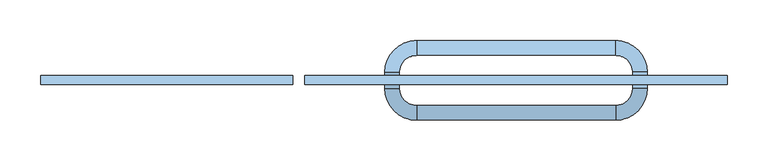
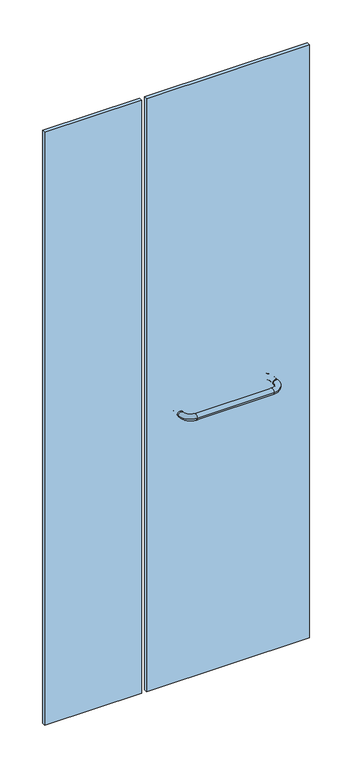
"""IFC4 building model written with IfcOpenShell, lengths in millimetres: window geometry, Baño 1 Puerta lateral - toallero simple : CA09-cancel baño-0.86."""

from ifc_helpers import new_model, si_unit, point, frame, origin, origin_with_axes, place, context, project, spatial, polyline, circle_curve, ellipse_curve, trimmed, outline, extrude, source, transform, mapped, element, save
from ifc_brep_helpers import cylinder_surface, revolved_surface, advanced_brep


def window_3a4cdc61(model_context):
    return source(origin(), model_context, "Body", "SolidModel", [
        extrude(outline(polyline([(-105.0, -5.5), (-105.0, 5.5), (415.0, 5.5), (415.0, -5.5), (-105.0, -5.5)])), origin_with_axes(), (0.0, 0.0, 1.0), 2000.0),
        extrude(outline(polyline([(-430.0, -5.5), (-430.0, 5.5), (-120.0, 5.5), (-120.0, -5.5), (-430.0, -5.5)])), origin_with_axes(), (0.0, 0.0, 1.0), 2000.0),
        advanced_brep(
        [(-6.5, 10.0, 900.0), (32.5, 49.0, 900.0), (32.5, 31.0, 900.0), (11.5, 10.0, 900.0), (11.5, -10.0, 900.0), (-6.5, -10.0, 900.0), (32.5, -49.0, 900.0), (32.5, -31.0, 900.0), (277.5, -31.0, 900.0), (277.5, -49.0, 900.0), (316.5, -10.0, 900.0), (298.5, -10.0, 900.0), (298.5, 10.0, 900.0), (316.5, 10.0, 900.0), (277.5, 49.0, 900.0), (277.5, 31.0, 900.0)],
        [
            (0, 1, circle_curve(frame((32.5, 10.0, 900.0), z_axis=(0.0, 0.0, -1.0), x_axis=(0.0, 1.0, 0.0)), 39.0)),
            (1, 2, circle_curve(frame((32.5, 40.0, 900.0), z_axis=(-1.0, 0.0, 0.0), x_axis=(0.0, -1.0, 0.0)), 9.0)),
            (2, 3, circle_curve(frame((32.5, 10.0, 900.0), z_axis=(0.0, 0.0, 1.0), x_axis=(0.0, 1.0, 0.0)), 21.0)),
            (3, 0, circle_curve(frame((2.5, 10.0, 900.0), z_axis=(0.0, 1.0, 0.0), x_axis=(1.0, 0.0, 0.0)), 9.0)),
            (2, 1, circle_curve(frame((32.5, 40.0, 900.0), z_axis=(-1.0, 0.0, 0.0), x_axis=(0.0, -1.0, 0.0)), 9.0)),
            (0, 3, circle_curve(frame((2.5, 10.0, 900.0), z_axis=(0.0, 1.0, 0.0), x_axis=(1.0, 0.0, 0.0)), 9.0)),
            (3, 4),
            (4, 5, circle_curve(frame((2.5, -10.0, 900.0), z_axis=(0.0, 1.0, 0.0), x_axis=(1.0, 0.0, 0.0)), 9.0)),
            (5, 0),
            (5, 4, circle_curve(frame((2.5, -10.0, 900.0), z_axis=(0.0, 1.0, 0.0), x_axis=(1.0, 0.0, 0.0)), 9.0)),
            (6, 5, circle_curve(frame((32.5, -10.0, 900.0), z_axis=(0.0, 0.0, -1.0), x_axis=(-1.0, 0.0, 0.0)), 39.0)),
            (4, 7, circle_curve(frame((32.5, -10.0, 900.0), z_axis=(0.0, 0.0, 1.0), x_axis=(-1.0, 0.0, 0.0)), 21.0)),
            (7, 6, circle_curve(frame((32.5, -40.0, 900.0), z_axis=(-1.0, 0.0, 0.0), x_axis=(0.0, 1.0, 0.0)), 9.0)),
            (6, 7, circle_curve(frame((32.5, -40.0, 900.0), z_axis=(-1.0, 0.0, 0.0), x_axis=(0.0, 1.0, 0.0)), 9.0)),
            (7, 8),
            (8, 9, circle_curve(frame((277.5, -40.0, 900.0), z_axis=(-1.0, 0.0, 0.0), x_axis=(0.0, 1.0, 0.0)), 9.0)),
            (9, 6),
            (9, 8, circle_curve(frame((277.5, -40.0, 900.0), z_axis=(-1.0, 0.0, 0.0), x_axis=(0.0, 1.0, 0.0)), 9.0)),
            (10, 9, circle_curve(frame((277.5, -10.0, 900.0), z_axis=(0.0, 0.0, -1.0), x_axis=(0.0, -1.0, 0.0)), 39.0)),
            (8, 11, circle_curve(frame((277.5, -10.0, 900.0), z_axis=(0.0, 0.0, 1.0), x_axis=(0.0, -1.0, 0.0)), 21.0)),
            (11, 10, circle_curve(frame((307.5, -10.0, 900.0), z_axis=(0.0, -1.0, 0.0), x_axis=(-1.0, 0.0, 0.0)), 9.0)),
            (10, 11, circle_curve(frame((307.5, -10.0, 900.0), z_axis=(0.0, -1.0, 0.0), x_axis=(-1.0, 0.0, 0.0)), 9.0)),
            (11, 12),
            (12, 13, circle_curve(frame((307.5, 10.0, 900.0), z_axis=(0.0, -1.0, 0.0), x_axis=(-1.0, 0.0, 0.0)), 9.0)),
            (13, 10),
            (13, 12, circle_curve(frame((307.5, 10.0, 900.0), z_axis=(0.0, -1.0, 0.0), x_axis=(-1.0, 0.0, 0.0)), 9.0)),
            (14, 13, circle_curve(frame((277.5, 10.0, 900.0), z_axis=(0.0, 0.0, -1.0), x_axis=(1.0, 0.0, 0.0)), 39.0)),
            (12, 15, circle_curve(frame((277.5, 10.0, 900.0), z_axis=(0.0, 0.0, 1.0), x_axis=(1.0, 0.0, 0.0)), 21.0)),
            (15, 14, circle_curve(frame((277.5, 40.0, 900.0), z_axis=(1.0, 0.0, 0.0), x_axis=(0.0, -1.0, 0.0)), 9.0)),
            (14, 15, circle_curve(frame((277.5, 40.0, 900.0), z_axis=(1.0, 0.0, 0.0), x_axis=(0.0, -1.0, 0.0)), 9.0)),
            (15, 2),
            (1, 14),
        ],
        [
            revolved_surface(trimmed(ellipse_curve(frame((32.5, 40.0, 900.0), z_axis=(1.0, 0.0, 0.0), x_axis=(0.0, -1.0, 0.0)), 9.0, 9.0), [point((32.5, 31.0, 900.0))], [point((32.5, 49.0, 900.0))], True, "CARTESIAN"), (32.5, 10.0, 0.0), (0.0, 0.0, 1.0)),
            revolved_surface(trimmed(ellipse_curve(frame((32.5, 40.0, 900.0), z_axis=(1.0, 0.0, 0.0), x_axis=(0.0, -1.0, 0.0)), 9.0, 9.0), [point((32.5, 49.0, 900.0))], [point((32.5, 31.0, 900.0))], True, "CARTESIAN"), (32.5, 10.0, 0.0), (0.0, 0.0, 1.0)),
            cylinder_surface(frame((2.5, 10.0, 900.0), z_axis=(0.0, 1.0, 0.0), x_axis=(1.0, 0.0, 0.0)), 9.0),
            revolved_surface(trimmed(ellipse_curve(frame((2.5, -10.0, 900.0), z_axis=(0.0, 1.0, 0.0), x_axis=(1.0, 0.0, 0.0)), 9.0, 9.0), [point((11.5, -10.0, 900.0))], [point((-6.5, -10.0, 900.0))], True, "CARTESIAN"), (32.5, -10.0, 0.0), (0.0, 0.0, 1.0)),
            revolved_surface(trimmed(ellipse_curve(frame((2.5, -10.0, 900.0), z_axis=(0.0, 1.0, 0.0), x_axis=(1.0, 0.0, 0.0)), 9.0, 9.0), [point((-6.5, -10.0, 900.0))], [point((11.5, -10.0, 900.0))], True, "CARTESIAN"), (32.5, -10.0, 0.0), (0.0, 0.0, 1.0)),
            cylinder_surface(frame((32.5, -40.0, 900.0), z_axis=(-1.0, 0.0, 0.0), x_axis=(0.0, 1.0, 0.0)), 9.0),
            revolved_surface(trimmed(ellipse_curve(frame((277.5, -40.0, 900.0), z_axis=(-1.0, 0.0, 0.0), x_axis=(0.0, 1.0, 0.0)), 9.0, 9.0), [point((277.5, -31.0, 900.0))], [point((277.5, -49.0, 900.0))], True, "CARTESIAN"), (277.5, -10.0, 0.0), (0.0, 0.0, 1.0)),
            revolved_surface(trimmed(ellipse_curve(frame((277.5, -40.0, 900.0), z_axis=(-1.0, 0.0, 0.0), x_axis=(0.0, 1.0, 0.0)), 9.0, 9.0), [point((277.5, -49.0, 900.0))], [point((277.5, -31.0, 900.0))], True, "CARTESIAN"), (277.5, -10.0, 0.0), (0.0, 0.0, 1.0)),
            cylinder_surface(frame((307.5, -10.0, 900.0), z_axis=(0.0, -1.0, 0.0), x_axis=(-1.0, 0.0, 0.0)), 9.0),
            revolved_surface(trimmed(ellipse_curve(frame((307.5, 10.0, 900.0), z_axis=(0.0, -1.0, 0.0), x_axis=(-1.0, 0.0, 0.0)), 9.0, 9.0), [point((298.5, 10.0, 900.0))], [point((316.5, 10.0, 900.0))], True, "CARTESIAN"), (277.5, 10.0, 0.0), (0.0, 0.0, 1.0)),
            revolved_surface(trimmed(ellipse_curve(frame((307.5, 10.0, 900.0), z_axis=(0.0, -1.0, 0.0), x_axis=(-1.0, 0.0, 0.0)), 9.0, 9.0), [point((316.5, 10.0, 900.0))], [point((298.5, 10.0, 900.0))], True, "CARTESIAN"), (277.5, 10.0, 0.0), (0.0, 0.0, 1.0)),
            cylinder_surface(frame((277.5, 40.0, 900.0), z_axis=(1.0, 0.0, 0.0), x_axis=(0.0, -1.0, 0.0)), 9.0),
        ],
        [
            (0, [[1, 2, 3, 4]]),
            (1, [[-3, 5, -1, 6]]),
            (2, [[-4, 7, 8, 9]]),
            (2, [[-6, -9, 10, -7]]),
            (3, [[11, -8, 12, 13]]),
            (4, [[-12, -10, -11, 14]]),
            (5, [[-13, 15, 16, 17]]),
            (5, [[-14, -17, 18, -15]]),
            (6, [[19, -16, 20, 21]]),
            (7, [[-20, -18, -19, 22]]),
            (8, [[-21, 23, 24, 25]]),
            (8, [[-22, -25, 26, -23]]),
            (9, [[27, -24, 28, 29]]),
            (10, [[-28, -26, -27, 30]]),
            (11, [[-29, 31, -2, 32]]),
            (11, [[-30, -32, -5, -31]]),
        ],
    ),
    ])


if __name__ == "__main__":
    model = new_model("IFC4")
    model_context = context("Model", 3, world=origin())
    ifc_project = project(units=[si_unit("LENGTHUNIT", "METRE", prefix="MILLI")], contexts=[model_context])
    site = spatial("IfcSite", under=ifc_project)
    building = spatial("IfcBuilding", under=site)
    placement = place(None, origin())
    window_shape = window_3a4cdc61(model_context)
    element("IfcWindow", 1, ObjectType="Baño 1 Puerta lateral - toallero simple : CA09-cancel baño-0.86", at=placement, inside=building, context=model_context, shape_type="MappedRepresentation", body=[
        mapped(window_shape, transform((0.0, 0.0, 0.0), x_axis=(1.0, 0.0, 0.0), y_axis=(0.0, 1.0, 0.0), z_axis=(0.0, 0.0, 1.0))),
    ])
    save(model, "model.ifc")
